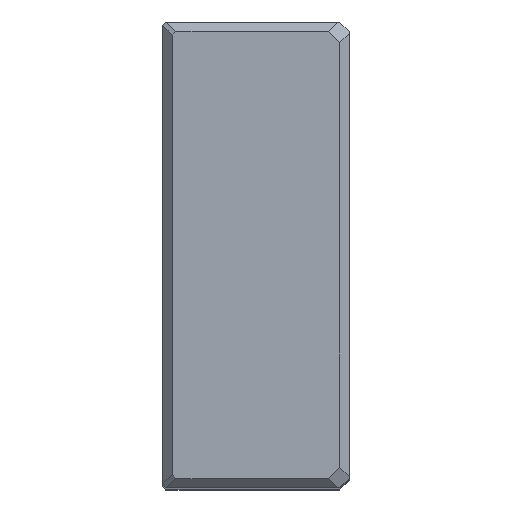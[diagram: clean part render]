
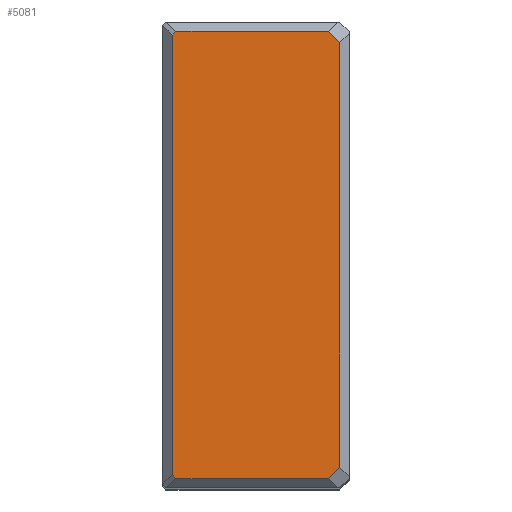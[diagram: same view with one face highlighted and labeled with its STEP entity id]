
A CAD part, top view. The second image highlights one B-rep face of the part: STEP entity #5081.
In plain terms, the highlighted planar face has unit normal (0, 0, 1).
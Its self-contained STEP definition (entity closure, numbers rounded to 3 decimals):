
#95=VERTEX_POINT(' ',#96);
#96=CARTESIAN_POINT('',(-3.,-68.326,0.));
#97=VERTEX_POINT(' ',#98);
#98=CARTESIAN_POINT('',(-6.674,-72.,0.));
#127=VERTEX_POINT(' ',#128);
#128=CARTESIAN_POINT('',(-3.,68.326,0.));
#135=VERTEX_POINT(' ',#136);
#136=CARTESIAN_POINT('',(-6.674,72.,0.));
#161=VERTEX_POINT(' ',#162);
#162=CARTESIAN_POINT('',(-55.775,-72.,0.));
#169=VERTEX_POINT(' ',#170);
#170=CARTESIAN_POINT('',(-57.,-70.775,0.));
#189=VERTEX_POINT(' ',#190);
#190=CARTESIAN_POINT('',(-57.,70.775,0.));
#193=VERTEX_POINT(' ',#194);
#194=CARTESIAN_POINT('',(-55.775,72.,0.));
#1008=LINE('',#1009,#1010);
#1009=CARTESIAN_POINT('',(32.663,-32.663,0.));
#1010=VECTOR('',#1011,1.);
#1011=DIRECTION('',(0.707,0.707,0.));
#1012=EDGE_CURVE(' ',#95,#97,#1008,.F.);
#1138=LINE('',#1139,#1140);
#1139=CARTESIAN_POINT('',(-3.,-75.12,0.));
#1140=VECTOR('',#1141,1.);
#1141=DIRECTION('',(0.,1.,0.));
#1142=EDGE_CURVE(' ',#95,#127,#1138,.T.);
#1163=LINE('',#1164,#1165);
#1164=CARTESIAN_POINT('',(32.663,32.663,0.));
#1165=VECTOR('',#1166,1.);
#1166=DIRECTION('',(-0.707,0.707,0.));
#1167=EDGE_CURVE(' ',#135,#127,#1163,.F.);
#1308=LINE('',#1309,#1310);
#1309=CARTESIAN_POINT('',(-60.12,-72.,0.));
#1310=VECTOR('',#1311,1.);
#1311=DIRECTION('',(1.,0.,0.));
#1312=EDGE_CURVE(' ',#161,#97,#1308,.T.);
#1323=LINE('',#1324,#1325);
#1324=CARTESIAN_POINT('',(-63.888,-63.888,0.));
#1325=VECTOR('',#1326,1.);
#1326=DIRECTION('',(0.707,-0.707,0.));
#1327=EDGE_CURVE(' ',#161,#169,#1323,.F.);
#1420=LINE('',#1421,#1422);
#1421=CARTESIAN_POINT('',(-57.,-75.12,0.));
#1422=VECTOR('',#1423,1.);
#1423=DIRECTION('',(0.,1.,0.));
#1424=EDGE_CURVE(' ',#169,#189,#1420,.T.);
#1425=LINE('',#1426,#1427);
#1426=CARTESIAN_POINT('',(-63.888,63.888,0.));
#1427=VECTOR('',#1428,1.);
#1428=DIRECTION('',(-0.707,-0.707,0.));
#1429=EDGE_CURVE(' ',#189,#193,#1425,.F.);
#1430=LINE('',#1431,#1432);
#1431=CARTESIAN_POINT('',(-60.12,72.,0.));
#1432=VECTOR('',#1433,1.);
#1433=DIRECTION('',(1.,0.,0.));
#1434=EDGE_CURVE(' ',#135,#193,#1430,.F.);
#5066=ORIENTED_EDGE('',*,*,#1429,.F.);
#5067=ORIENTED_EDGE('',*,*,#1424,.F.);
#5068=ORIENTED_EDGE('',*,*,#1327,.F.);
#5069=ORIENTED_EDGE('',*,*,#1312,.T.);
#5070=ORIENTED_EDGE('',*,*,#1012,.F.);
#5071=ORIENTED_EDGE('',*,*,#1142,.T.);
#5072=ORIENTED_EDGE('',*,*,#1167,.F.);
#5073=ORIENTED_EDGE('',*,*,#1434,.T.);
#5074=EDGE_LOOP('',(#5066,#5067,#5068,#5069,#5070,#5071,#5072,#5073));
#5075=FACE_OUTER_BOUND('',#5074,.T.);
#5076=PLANE('',#5077);
#5077=AXIS2_PLACEMENT_3D('',#5078,#5079,#5080);
#5078=CARTESIAN_POINT('',(-57.,0.,0.));
#5079=DIRECTION('',(0.,0.,1.));
#5080=DIRECTION('',(1.,0.,0.));
#5081=ADVANCED_FACE('',(#5075),#5076,.T.);
